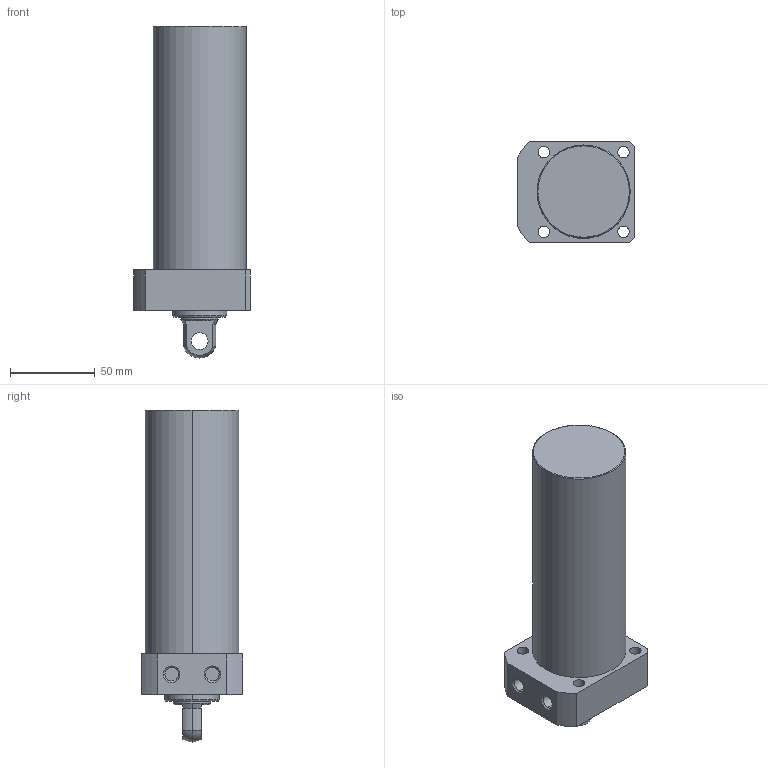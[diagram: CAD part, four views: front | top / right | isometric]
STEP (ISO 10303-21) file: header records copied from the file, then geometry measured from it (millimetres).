
FILE_DESCRIPTION (( 'STEP AP203' ), '1' );
FILE_NAME ('CLLR-055CP-115.STEP', '2019-12-17T12:38:31', ( '' ), ( '' ), 'SwSTEP 2.0', 'SolidWorks 2015', '' );
FILE_SCHEMA (( 'CONFIG_CONTROL_DESIGN' ));
Length unit declared in the file: millimetre
Products named in the file (1): CLLR-055CP-115
Bounding box: 69 x 60 x 196 mm (x, y, z)
Volume: 441643.3 mm3; surface area: 43099.5 mm2
Topology: 1 solids, 1 shells, 59 faces, 139 edges, 89 vertices
Faces by surface type: cylinder 29, plane 18, cone 8, torus 2, sphere 2
Entity records: 1822 total; most frequent: DIRECTION 331, CARTESIAN_POINT 300, ORIENTED_EDGE 278, EDGE_CURVE 139, AXIS2_PLACEMENT_3D 136, VERTEX_POINT 89, EDGE_LOOP 76, CIRCLE 76
